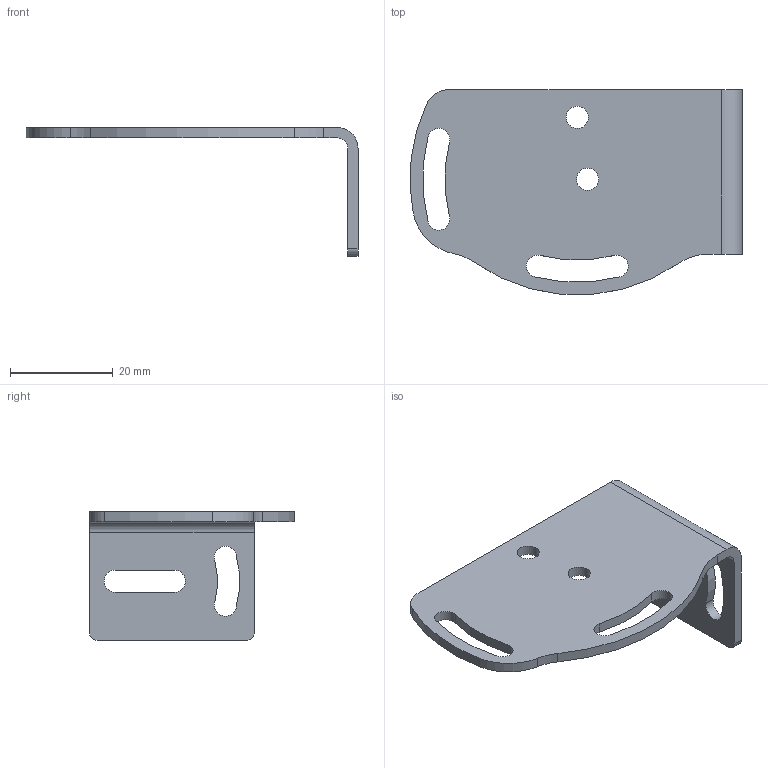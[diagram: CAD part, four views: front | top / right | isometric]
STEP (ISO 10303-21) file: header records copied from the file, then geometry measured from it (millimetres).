
FILE_DESCRIPTION(/* description */ (''),/* implementation_level */ '2;1');
FILE_NAME(/* name */ 'C:\#Vault-WorkDir\Konstruktions-Dokumente\Projekte\F55\Zubehör\153-00818_MS F55.stp',/* time_stamp */ '2018-02-26T11:47:51+01:00',/* author */ ('SensoPart'),/* organization */ (''),/* preprocessor_version */ 'ST-DEVELOPER v16.1',/* originating_system */ 'Autodesk Inventor 2016',/* authorisation */ '');
FILE_SCHEMA (('AUTOMOTIVE_DESIGN { 1 0 10303 214 3 1 1 }'));
Length unit declared in the file: millimetre
Products named in the file (1): GH-ENG-0023044
Bounding box: 64.48 x 39.81 x 25 mm (x, y, z)
Volume: 5264.7 mm3; surface area: 6094.4 mm2
Topology: 1 solids, 1 shells, 35 faces, 99 edges, 66 vertices
Faces by surface type: cylinder 26, plane 9
Full cylindrical faces by diameter (mm): 4.3 x2
Entity records: 1203 total; most frequent: DIRECTION 221, CARTESIAN_POINT 199, ORIENTED_EDGE 194, EDGE_CURVE 97, AXIS2_PLACEMENT_3D 88, VERTEX_POINT 66, CIRCLE 52, EDGE_LOOP 49
